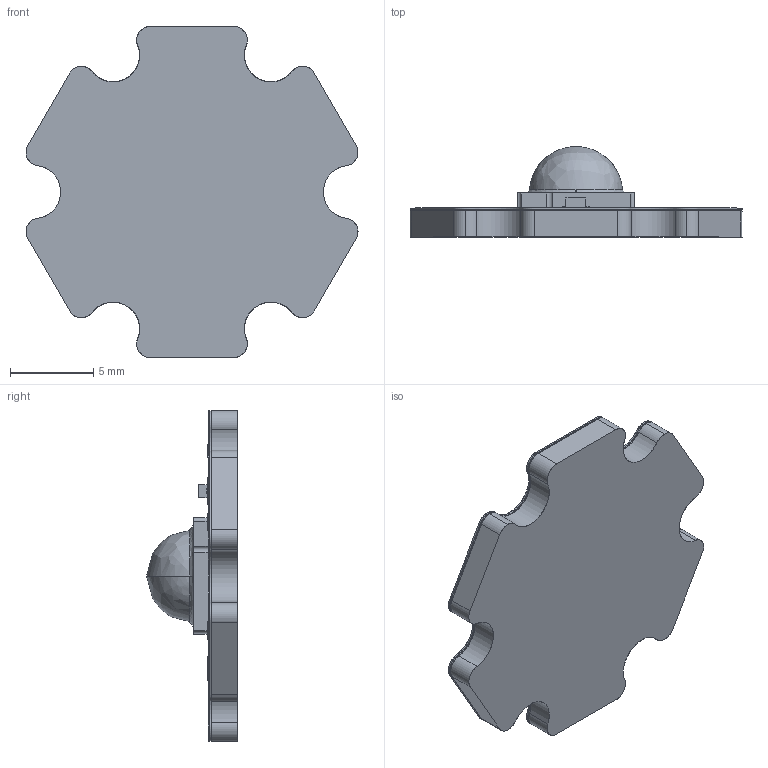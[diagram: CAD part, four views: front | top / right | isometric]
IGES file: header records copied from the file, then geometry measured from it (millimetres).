
Start section: SolidWorks IGES file using analytic representation for surfaces
Global section: file name: C:\P-Gold\Projects\MCPCBs\For_07x07_04die_LZ4\1900-0082-BGQ\Applications\1900-0082-P3_LZ4_1x4_MCPCB_RevB.IGS; native system: SolidWorks 2011; preprocessor: SolidWorks 2011; author: dadebiyi; date: 130225.141012; units: millimetre
Bounding box: 19.96 x 5.45 x 19.9 mm (x, y, z)
Surface area: 2336.5 mm2 (no closed solid volume)
Topology: 0 solids, 0 shells, 801 faces, 7000 edges, 6996 vertices
Faces by surface type: bspline 593, revolution 208
